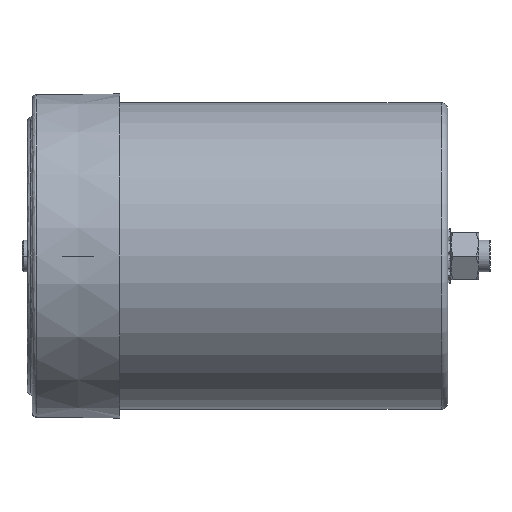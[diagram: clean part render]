
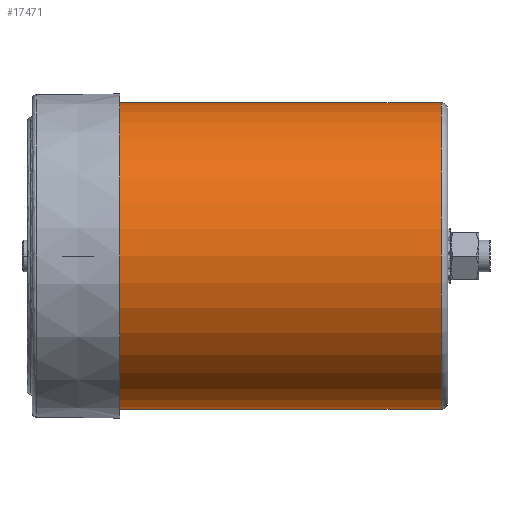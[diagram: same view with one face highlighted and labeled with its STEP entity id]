
A CAD part, left-side view. The second image highlights one B-rep face of the part: STEP entity #17471.
In plain terms, the highlighted cylindrical face has radius 58 mm (diameter 116 mm), a partial arc.
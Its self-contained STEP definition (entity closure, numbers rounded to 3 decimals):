
#182 = DIRECTION ( 'NONE',  ( 0., 0., -1. ) ) ;
#243 = EDGE_LOOP ( 'NONE', ( #15954, #4704, #10029, #4971 ) ) ;
#612 = CARTESIAN_POINT ( 'NONE',  ( 0., -151.9, -58. ) ) ;
#910 = VERTEX_POINT ( 'NONE', #7185 ) ;
#911 = AXIS2_PLACEMENT_3D ( 'NONE', #14827, #17930, #13240 ) ;
#1167 = CYLINDRICAL_SURFACE ( 'NONE', #19028, 58. ) ;
#1597 = DIRECTION ( 'NONE',  ( 0., -1., 0. ) ) ;
#1648 = VECTOR ( 'NONE', #18041, 1000. ) ;
#1857 = AXIS2_PLACEMENT_3D ( 'NONE', #7756, #12730, #9530 ) ;
#3330 = CARTESIAN_POINT ( 'NONE',  ( 0., -151.9, 58. ) ) ;
#3573 = CARTESIAN_POINT ( 'NONE',  ( 0., -154.4, 0. ) ) ;
#3940 = EDGE_CURVE ( 'NONE', #5433, #16843, #19753, .T. ) ;
#4704 = ORIENTED_EDGE ( 'NONE', *, *, #7901, .F. ) ;
#4971 = ORIENTED_EDGE ( 'NONE', *, *, #7278, .T. ) ;
#5433 = VERTEX_POINT ( 'NONE', #17042 ) ;
#5501 = CARTESIAN_POINT ( 'NONE',  ( 0., -154.4, -58. ) ) ;
#6606 = DIRECTION ( 'NONE',  ( 0., -1., 0. ) ) ;
#7185 = CARTESIAN_POINT ( 'NONE',  ( 0., 0., -58. ) ) ;
#7278 = EDGE_CURVE ( 'NONE', #18634, #16843, #10823, .T. ) ;
#7653 = VECTOR ( 'NONE', #1597, 1000. ) ;
#7756 = CARTESIAN_POINT ( 'NONE',  ( 0., 0., 0. ) ) ;
#7901 = EDGE_CURVE ( 'NONE', #910, #5433, #17242, .T. ) ;
#9530 = DIRECTION ( 'NONE',  ( 0., 0., -1. ) ) ;
#10029 = ORIENTED_EDGE ( 'NONE', *, *, #18043, .T. ) ;
#10823 = CIRCLE ( 'NONE', #911, 58. ) ;
#12730 = DIRECTION ( 'NONE',  ( 0., 1., 0. ) ) ;
#13240 = DIRECTION ( 'NONE',  ( 0., 0., -1. ) ) ;
#14827 = CARTESIAN_POINT ( 'NONE',  ( 0., -151.9, 0. ) ) ;
#15227 = LINE ( 'NONE', #5501, #1648 ) ;
#15954 = ORIENTED_EDGE ( 'NONE', *, *, #3940, .F. ) ;
#16843 = VERTEX_POINT ( 'NONE', #3330 ) ;
#17042 = CARTESIAN_POINT ( 'NONE',  ( 0., 0., 58. ) ) ;
#17242 = CIRCLE ( 'NONE', #1857, 58. ) ;
#17471 = ADVANCED_FACE ( 'NONE', ( #18963 ), #1167, .T. ) ;
#17538 = CARTESIAN_POINT ( 'NONE',  ( 0., -154.4, 58. ) ) ;
#17930 = DIRECTION ( 'NONE',  ( 0., 1., 0. ) ) ;
#18041 = DIRECTION ( 'NONE',  ( 0., -1., 0. ) ) ;
#18043 = EDGE_CURVE ( 'NONE', #910, #18634, #15227, .T. ) ;
#18634 = VERTEX_POINT ( 'NONE', #612 ) ;
#18963 = FACE_OUTER_BOUND ( 'NONE', #243, .T. ) ;
#19028 = AXIS2_PLACEMENT_3D ( 'NONE', #3573, #6606, #182 ) ;
#19753 = LINE ( 'NONE', #17538, #7653 ) ;
